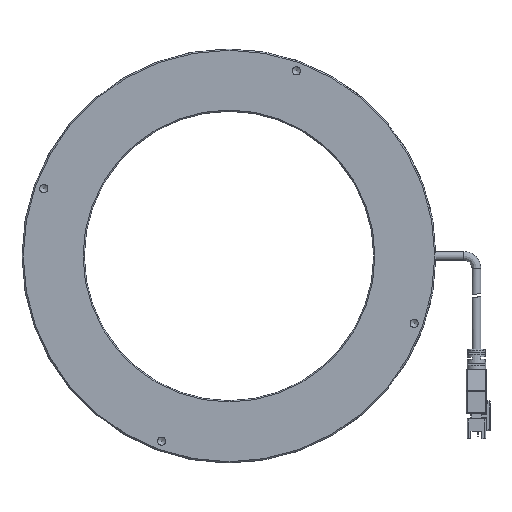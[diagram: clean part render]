
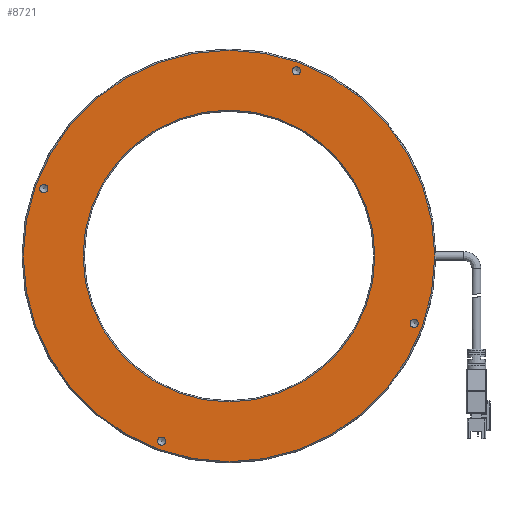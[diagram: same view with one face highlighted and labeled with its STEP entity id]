
A CAD part, front view. The second image highlights one B-rep face of the part: STEP entity #8721.
In plain terms, the highlighted planar face has unit normal (0, -1, 0).
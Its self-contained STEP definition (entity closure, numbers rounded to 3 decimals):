
#78 = CARTESIAN_POINT ( 'NONE',  ( -2134.667, -1276.156, 25.37 ) ) ;
#363 = EDGE_CURVE ( 'NONE', #468, #468, #5134, .T. ) ;
#468 = VERTEX_POINT ( 'NONE', #2111 ) ;
#502 = CIRCLE ( 'NONE', #5746, 1.65 ) ;
#739 = CARTESIAN_POINT ( 'NONE',  ( -1986.196, -1276.156, -27.02 ) ) ;
#893 = CARTESIAN_POINT ( 'NONE',  ( -2060.431, -1276.156, -82.5 ) ) ;
#910 = FACE_BOUND ( 'NONE', #9099, .T. ) ;
#924 = ORIENTED_EDGE ( 'NONE', *, *, #5906, .T. ) ;
#1471 = DIRECTION ( 'NONE',  ( 0., -1., 0. ) ) ;
#1505 = ORIENTED_EDGE ( 'NONE', *, *, #5922, .F. ) ;
#1919 = DIRECTION ( 'NONE',  ( 0., 1., 0. ) ) ;
#1971 = AXIS2_PLACEMENT_3D ( 'NONE', #6504, #4403, #8728 ) ;
#2074 = CIRCLE ( 'NONE', #7044, 82.5 ) ;
#2111 = CARTESIAN_POINT ( 'NONE',  ( -2087.451, -1276.156, -75.886 ) ) ;
#2215 = EDGE_CURVE ( 'NONE', #3048, #3048, #7348, .T. ) ;
#2550 = ORIENTED_EDGE ( 'NONE', *, *, #363, .F. ) ;
#3036 = FACE_OUTER_BOUND ( 'NONE', #3215, .T. ) ;
#3048 = VERTEX_POINT ( 'NONE', #4220 ) ;
#3186 = EDGE_LOOP ( 'NONE', ( #1505 ) ) ;
#3215 = EDGE_LOOP ( 'NONE', ( #924 ) ) ;
#3285 = CARTESIAN_POINT ( 'NONE',  ( -2134.667, -1276.156, 27.02 ) ) ;
#3310 = DIRECTION ( 'NONE',  ( 0., 0., -1. ) ) ;
#3418 = DIRECTION ( 'NONE',  ( 0., 0., 1. ) ) ;
#3601 = VERTEX_POINT ( 'NONE', #3746 ) ;
#3643 = AXIS2_PLACEMENT_3D ( 'NONE', #7596, #8417, #3310 ) ;
#3746 = CARTESIAN_POINT ( 'NONE',  ( -1986.196, -1276.156, -28.67 ) ) ;
#3828 = VERTEX_POINT ( 'NONE', #78 ) ;
#3966 = CARTESIAN_POINT ( 'NONE',  ( -2087.451, -1276.156, -74.236 ) ) ;
#4036 = ORIENTED_EDGE ( 'NONE', *, *, #2215, .F. ) ;
#4220 = CARTESIAN_POINT ( 'NONE',  ( -2033.412, -1276.156, 72.586 ) ) ;
#4403 = DIRECTION ( 'NONE',  ( 0., -1., 0. ) ) ;
#4513 = CIRCLE ( 'NONE', #8837, 1.65 ) ;
#4622 = DIRECTION ( 'NONE',  ( 0., -1., 0. ) ) ;
#4715 = DIRECTION ( 'NONE',  ( 0., -1., 0. ) ) ;
#4792 = CARTESIAN_POINT ( 'NONE',  ( -2142.931, -1276.156, 0. ) ) ;
#4841 = FACE_BOUND ( 'NONE', #7318, .T. ) ;
#4955 = EDGE_CURVE ( 'NONE', #8875, #8875, #8477, .T. ) ;
#5022 = DIRECTION ( 'NONE',  ( 0., -1., 0. ) ) ;
#5131 = EDGE_CURVE ( 'NONE', #3828, #3828, #502, .T. ) ;
#5134 = CIRCLE ( 'NONE', #5651, 1.65 ) ;
#5169 = FACE_BOUND ( 'NONE', #8646, .T. ) ;
#5315 = DIRECTION ( 'NONE',  ( 0., 0., -1. ) ) ;
#5368 = ORIENTED_EDGE ( 'NONE', *, *, #5131, .F. ) ;
#5443 = DIRECTION ( 'NONE',  ( 0., 0., -1. ) ) ;
#5651 = AXIS2_PLACEMENT_3D ( 'NONE', #3966, #4622, #5315 ) ;
#5746 = AXIS2_PLACEMENT_3D ( 'NONE', #3285, #4715, #5443 ) ;
#5906 = EDGE_CURVE ( 'NONE', #7852, #7852, #2074, .T. ) ;
#5922 = EDGE_CURVE ( 'NONE', #3601, #3601, #4513, .T. ) ;
#6033 = AXIS2_PLACEMENT_3D ( 'NONE', #4792, #1919, #3418 ) ;
#6417 = DIRECTION ( 'NONE',  ( 0., 0., -1. ) ) ;
#6504 = CARTESIAN_POINT ( 'NONE',  ( -2060.431, -1276.156, 0. ) ) ;
#6517 = CARTESIAN_POINT ( 'NONE',  ( -2060.431, -1276.156, 0. ) ) ;
#6883 = FACE_BOUND ( 'NONE', #3186, .T. ) ;
#7044 = AXIS2_PLACEMENT_3D ( 'NONE', #6517, #5022, #6417 ) ;
#7299 = DIRECTION ( 'NONE',  ( 0., 0., -1. ) ) ;
#7318 = EDGE_LOOP ( 'NONE', ( #8025 ) ) ;
#7348 = CIRCLE ( 'NONE', #3643, 1.65 ) ;
#7596 = CARTESIAN_POINT ( 'NONE',  ( -2033.412, -1276.156, 74.236 ) ) ;
#7852 = VERTEX_POINT ( 'NONE', #893 ) ;
#8025 = ORIENTED_EDGE ( 'NONE', *, *, #4955, .F. ) ;
#8417 = DIRECTION ( 'NONE',  ( 0., -1., 0. ) ) ;
#8477 = CIRCLE ( 'NONE', #1971, 58.5 ) ;
#8523 = EDGE_LOOP ( 'NONE', ( #2550 ) ) ;
#8646 = EDGE_LOOP ( 'NONE', ( #4036 ) ) ;
#8721 = ADVANCED_FACE ( 'NONE', ( #8772, #6883, #5169, #910, #4841, #3036 ), #9079, .F. ) ;
#8728 = DIRECTION ( 'NONE',  ( 0., 0., -1. ) ) ;
#8742 = CARTESIAN_POINT ( 'NONE',  ( -2060.431, -1276.156, -58.5 ) ) ;
#8772 = FACE_BOUND ( 'NONE', #8523, .T. ) ;
#8837 = AXIS2_PLACEMENT_3D ( 'NONE', #739, #1471, #7299 ) ;
#8875 = VERTEX_POINT ( 'NONE', #8742 ) ;
#9079 = PLANE ( 'NONE',  #6033 ) ;
#9099 = EDGE_LOOP ( 'NONE', ( #5368 ) ) ;
